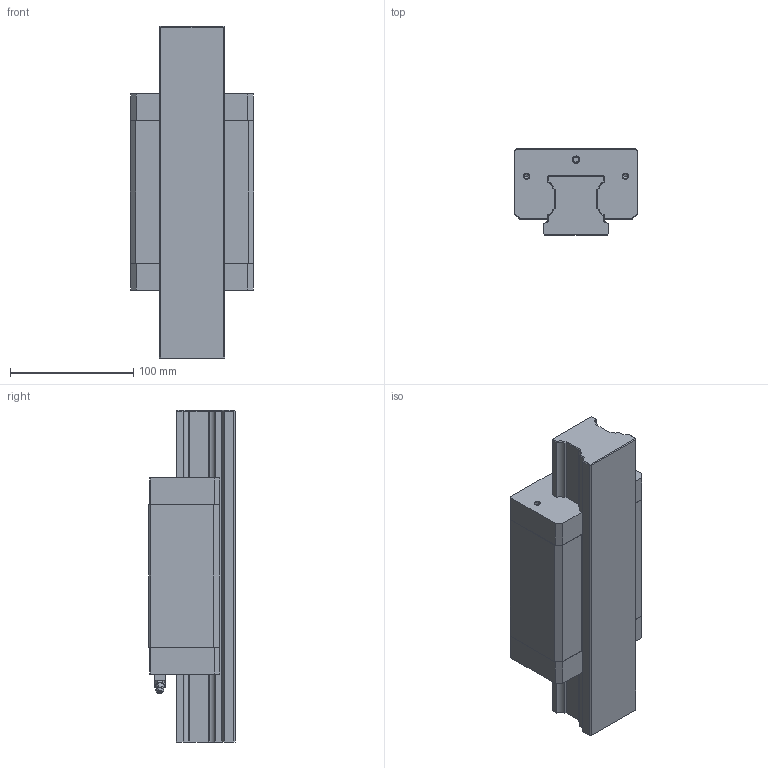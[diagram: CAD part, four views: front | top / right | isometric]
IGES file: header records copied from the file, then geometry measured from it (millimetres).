
Start section: 3D InterOp IGES (v. 2019 1.0.2), Spatial Corp. Copyright (c) 1999-2017.
Global section: file name: R1622_size55.igs; native system: Spatial Corp.; preprocessor: 3D InterOp GENERIC/IGES 3.0; author: Noname; organization: Noname; date: 20220629.124909; units: millimetre
Bounding box: 100 x 70 x 269 mm (x, y, z)
Surface area: 169204 mm2 (no closed solid volume)
Topology: 0 solids, 0 shells, 275 faces, 1528 edges, 1504 vertices
Faces by surface type: extrusion 154, revolution 119, bspline 2
